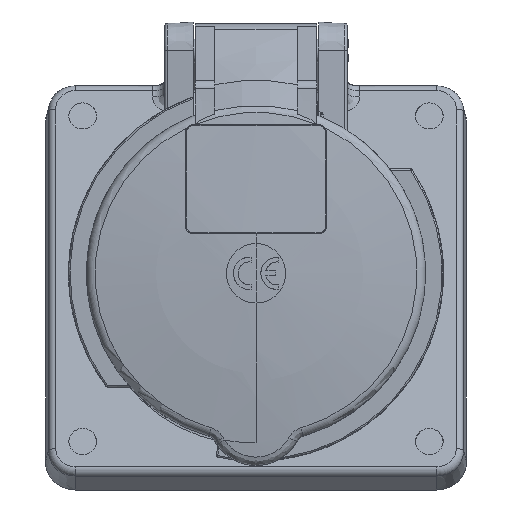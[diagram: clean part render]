
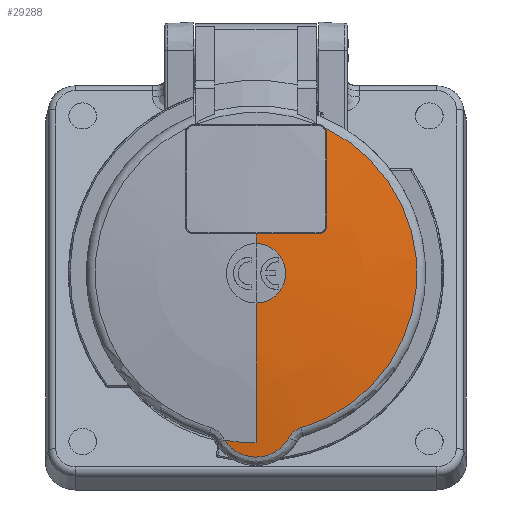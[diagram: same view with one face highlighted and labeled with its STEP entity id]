
A CAD part, top view. The second image highlights one B-rep face of the part: STEP entity #29288.
In plain terms, the highlighted spherical face has radius 250 mm.
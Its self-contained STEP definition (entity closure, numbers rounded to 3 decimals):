
#718=CARTESIAN_POINT('',(6.633,-33.164,6.902));
#719=CARTESIAN_POINT('',(6.707,-33.03,6.918));
#720=CARTESIAN_POINT('',(6.866,-32.773,6.948));
#721=CARTESIAN_POINT('',(7.15,-32.415,6.987));
#722=CARTESIAN_POINT('',(7.47,-32.093,7.019));
#723=CARTESIAN_POINT('',(7.823,-31.81,7.045));
#724=CARTESIAN_POINT('',(8.208,-31.566,7.063));
#725=CARTESIAN_POINT('',(8.62,-31.367,7.075));
#726=CARTESIAN_POINT('',(8.904,-31.267,7.077));
#727=CARTESIAN_POINT('',(9.049,-31.225,7.077));
#753=CARTESIAN_POINT('',(13.988,29.347,7.077));
#754=CARTESIAN_POINT('',(14.03,29.285,7.082));
#755=CARTESIAN_POINT('',(14.106,29.155,7.093));
#756=CARTESIAN_POINT('',(14.188,28.946,7.113));
#757=CARTESIAN_POINT('',(14.239,28.726,7.136));
#758=CARTESIAN_POINT('',(14.25,28.575,7.152));
#759=CARTESIAN_POINT('',(14.25,28.5,7.161));
#761=CARTESIAN_POINT('',(0.,0.,6.843));
#762=DIRECTION('',(0.,0.,-1.));
#763=DIRECTION('',(0.,-1.,0.));
#764=AXIS2_PLACEMENT_3D('',#761,#762,#763);
#766=CARTESIAN_POINT('',(0.,8.,-240.8));
#767=DIRECTION('',(0.,1.,0.));
#768=DIRECTION('',(0.,0.,1.));
#769=AXIS2_PLACEMENT_3D('',#766,#767,#768);
#771=CARTESIAN_POINT('',(14.25,9.5,8.613));
#772=CARTESIAN_POINT('',(14.25,9.42,8.616));
#773=CARTESIAN_POINT('',(14.237,9.26,8.622));
#774=CARTESIAN_POINT('',(14.18,9.026,8.634));
#775=CARTESIAN_POINT('',(14.086,8.804,8.648));
#776=CARTESIAN_POINT('',(13.958,8.6,8.662));
#777=CARTESIAN_POINT('',(13.798,8.418,8.677));
#778=CARTESIAN_POINT('',(13.612,8.265,8.692));
#779=CARTESIAN_POINT('',(13.408,8.145,8.707));
#780=CARTESIAN_POINT('',(13.192,8.06,8.722));
#781=CARTESIAN_POINT('',(12.97,8.011,8.735));
#782=CARTESIAN_POINT('',(12.823,8.,8.743));
#783=CARTESIAN_POINT('',(12.75,8.,8.746));
#785=CARTESIAN_POINT('',(14.25,0.,-240.8));
#786=DIRECTION('',(-1.,0.,0.));
#787=DIRECTION('',(0.,0.038,0.999));
#788=AXIS2_PLACEMENT_3D('',#785,#786,#787);
#1014=CARTESIAN_POINT('',(0.,0.,-240.8));
#1015=DIRECTION('',(1.,0.,0.));
#1016=DIRECTION('',(0.,0.032,0.999));
#1017=AXIS2_PLACEMENT_3D('',#1014,#1015,#1016);
#1029=CARTESIAN_POINT('',(0.,0.,-240.8));
#1030=DIRECTION('',(-1.,0.,0.));
#1031=DIRECTION('',(0.,-0.137,0.991));
#1032=AXIS2_PLACEMENT_3D('',#1029,#1030,#1031);
#1325=CARTESIAN_POINT('',(-6.338,-33.658,
6.843));
#1326=CARTESIAN_POINT('',(-6.188,-33.889,
6.815));
#1327=CARTESIAN_POINT('',(-5.864,-34.333,
6.762));
#1328=CARTESIAN_POINT('',(-5.307,-34.942,
6.69));
#1329=CARTESIAN_POINT('',(-4.689,-35.486,
6.625));
#1330=CARTESIAN_POINT('',(-4.016,-35.96,
6.568));
#1331=CARTESIAN_POINT('',(-3.296,-36.357,
6.521));
#1332=CARTESIAN_POINT('',(-2.538,-36.674,
6.483));
#1333=CARTESIAN_POINT('',(-1.751,-36.907,
6.455));
#1334=CARTESIAN_POINT('',(-0.943,-37.053,
6.438));
#1335=CARTESIAN_POINT('',(-0.125,-37.111,
6.431));
#1336=CARTESIAN_POINT('',(0.695,-37.08,
6.434));
#1337=CARTESIAN_POINT('',(1.507,-36.96,6.449));
#1338=CARTESIAN_POINT('',(2.301,-36.753,6.473));
#1339=CARTESIAN_POINT('',(3.07,-36.462,6.508));
#1340=CARTESIAN_POINT('',(3.802,-36.088,6.553));
#1341=CARTESIAN_POINT('',(4.49,-35.638,6.607));
#1342=CARTESIAN_POINT('',(5.126,-35.114,6.669));
#1343=CARTESIAN_POINT('',(5.702,-34.524,6.74));
#1344=CARTESIAN_POINT('',(6.211,-33.873,6.817));
#1345=CARTESIAN_POINT('',(6.501,-33.406,6.873));
#1346=CARTESIAN_POINT('',(6.633,-33.164,6.902));
#2982=CARTESIAN_POINT('',(0.,0.,7.077));
#2983=DIRECTION('',(0.,0.,1.));
#2984=DIRECTION('',(0.278,-0.96,0.));
#2985=AXIS2_PLACEMENT_3D('',#2982,#2983,#2984);
#22944=CARTESIAN_POINT('',(0.,0.,9.128));
#22945=DIRECTION('',(0.,0.,-1.));
#22946=DIRECTION('',(0.,1.,0.));
#22947=AXIS2_PLACEMENT_3D('',#22944,#22945,#22946);
#27537=VERTEX_POINT('',#1325);
#27538=VERTEX_POINT('',#1346);
#27541=VERTEX_POINT('',#727);
#27543=CARTESIAN_POINT('',(0.,-34.25,6.843));
#27544=VERTEX_POINT('',#27543);
#27587=VERTEX_POINT('',#753);
#27588=VERTEX_POINT('',#759);
#27589=CARTESIAN_POINT('',(14.25,9.5,8.613));
#27590=VERTEX_POINT('',#27589);
#27591=VERTEX_POINT('',#783);
#27592=CARTESIAN_POINT('',(0.,8.,9.072));
#27593=VERTEX_POINT('',#27592);
#27649=CARTESIAN_POINT('',(0.,-6.,9.128));
#27651=VERTEX_POINT('',#27649);
#27656=CARTESIAN_POINT('',(0.,6.,9.128));
#27657=VERTEX_POINT('',#27656);
#29260=CARTESIAN_POINT('',(0.,0.,-240.8));
#29261=DIRECTION('',(0.,0.,-1.));
#29262=DIRECTION('',(0.,-1.,0.));
#29263=AXIS2_PLACEMENT_3D('',#29260,#29261,#29262);
#29264=SPHERICAL_SURFACE('1723',#29263,250.);
#29266=ORIENTED_EDGE('5607',*,*,#29265,.F.);
#29268=ORIENTED_EDGE('5826',*,*,#29267,.F.);
#29269=ORIENTED_EDGE('5559',*,*,#29238,.F.);
#29271=ORIENTED_EDGE('5557',*,*,#29270,.F.);
#29273=ORIENTED_EDGE('5561',*,*,#29272,.F.);
#29275=ORIENTED_EDGE('5665',*,*,#29274,.T.);
#29277=ORIENTED_EDGE('5652',*,*,#29276,.F.);
#29279=ORIENTED_EDGE('5666',*,*,#29278,.F.);
#29281=ORIENTED_EDGE('5610',*,*,#29280,.T.);
#29283=ORIENTED_EDGE('5609',*,*,#29282,.F.);
#29285=ORIENTED_EDGE('5608',*,*,#29284,.T.);
#29286=EDGE_LOOP('1723',(#29266,#29268,#29269,#29271,#29273,#29275,#29277,
#29279,#29281,#29283,#29285));
#29287=FACE_OUTER_BOUND('1723',#29286,.F.);
#728=B_SPLINE_CURVE_WITH_KNOTS('5559',3,(#718,#719,#720,#721,#722,#723,#724,
#725,#726,#727),.UNSPECIFIED.,.F.,.F.,(4,1,1,1,1,1,1,4),(0.,0.143,
0.286,0.429,0.571,0.714,
0.857,1.),.UNSPECIFIED.);
#760=B_SPLINE_CURVE_WITH_KNOTS('5607',3,(#753,#754,#755,#756,#757,#758,#759),
.UNSPECIFIED.,.F.,.F.,(4,1,1,1,4),(0.,0.25,0.5,0.75,1.),
.UNSPECIFIED.);
#765=CIRCLE('5561',#764,34.25);
#770=CIRCLE('5610',#769,249.872);
#784=B_SPLINE_CURVE_WITH_KNOTS('5609',3,(#771,#772,#773,#774,#775,#776,#777,
#778,#779,#780,#781,#782,#783),.UNSPECIFIED.,.F.,.F.,(4,1,1,1,1,1,1,1,1,1,4),(
0.,0.1,0.2,0.3,0.4,0.5,0.6,0.7,0.8,0.9,1.),.UNSPECIFIED.);
#789=CIRCLE('5608',#788,249.594);
#1018=CIRCLE('5666',#1017,250.);
#1033=CIRCLE('5665',#1032,250.);
#1347=B_SPLINE_CURVE_WITH_KNOTS('5557',3,(#1325,#1326,#1327,#1328,#1329,#1330,
#1331,#1332,#1333,#1334,#1335,#1336,#1337,#1338,#1339,#1340,#1341,#1342,#1343,
#1344,#1345,#1346),.UNSPECIFIED.,.F.,.F.,(4,1,1,1,1,1,1,1,1,1,1,1,1,1,1,1,1,1,1,
4),(0.,0.053,0.105,0.158,
0.211,0.263,0.316,0.368,
0.421,0.474,0.526,0.579,
0.632,0.684,0.737,0.789,
0.842,0.895,0.947,1.),.UNSPECIFIED.);
#2986=CIRCLE('5826',#2985,32.51);
#22948=CIRCLE('5652',#22947,6.);
#29238=EDGE_CURVE('5559',#27538,#27541,#728,.T.);
#29265=EDGE_CURVE('5607',#27587,#27588,#760,.T.);
#29267=EDGE_CURVE('5826',#27541,#27587,#2986,.T.);
#29270=EDGE_CURVE('5557',#27537,#27538,#1347,.T.);
#29272=EDGE_CURVE('5561',#27544,#27537,#765,.T.);
#29274=EDGE_CURVE('5665',#27544,#27651,#1033,.T.);
#29276=EDGE_CURVE('5652',#27657,#27651,#22948,.T.);
#29278=EDGE_CURVE('5666',#27593,#27657,#1018,.T.);
#29280=EDGE_CURVE('5610',#27593,#27591,#770,.T.);
#29282=EDGE_CURVE('5609',#27590,#27591,#784,.T.);
#29284=EDGE_CURVE('5608',#27590,#27588,#789,.T.);
#29288=ADVANCED_FACE('1723',(#29287),#29264,.T.);
